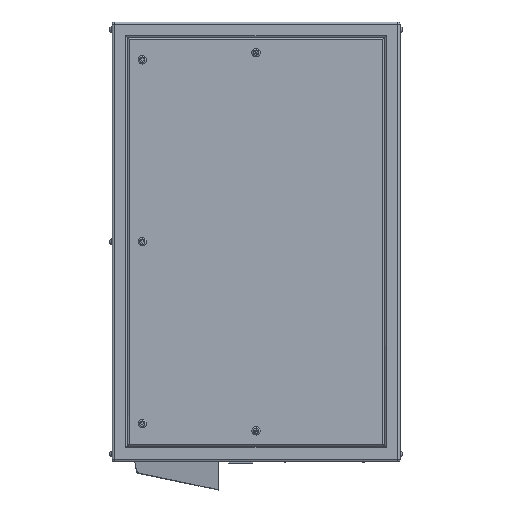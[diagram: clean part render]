
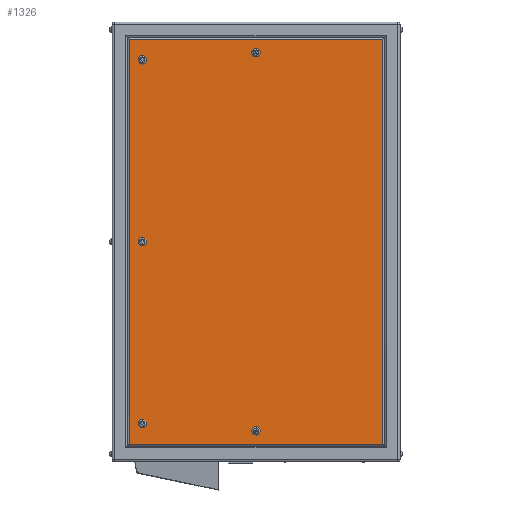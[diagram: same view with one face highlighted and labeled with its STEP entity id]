
A CAD part, left-side view. The second image highlights one B-rep face of the part: STEP entity #1326.
In plain terms, the highlighted planar face has unit normal (-1, 0, 0).
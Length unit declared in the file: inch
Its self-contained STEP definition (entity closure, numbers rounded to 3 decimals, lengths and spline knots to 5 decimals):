
#84 = ORIENTED_EDGE ( 'NONE', *, *, #1756, .T. ) ;
#146 = EDGE_LOOP ( 'NONE', ( #84, #14467 ) ) ;
#500 = CARTESIAN_POINT ( 'NONE',  ( -12.5, -16.74, 26.74 ) ) ;
#512 = CARTESIAN_POINT ( 'NONE',  ( -12.5, 19., -29. ) ) ;
#513 = CIRCLE ( 'NONE', #19868, 0.55 ) ;
#580 = CARTESIAN_POINT ( 'NONE',  ( -12.5, 0., 24.4 ) ) ;
#622 = FACE_BOUND ( 'NONE', #7264, .T. ) ;
#730 = FACE_BOUND ( 'NONE', #1294, .T. ) ;
#830 = EDGE_LOOP ( 'NONE', ( #18463, #2639 ) ) ;
#887 = DIRECTION ( 'NONE',  ( 0., 0., -1. ) ) ;
#1077 = CARTESIAN_POINT ( 'NONE',  ( -12.5, 0., -24.95 ) ) ;
#1294 = EDGE_LOOP ( 'NONE', ( #3354, #18619 ) ) ;
#1326 = ADVANCED_FACE ( 'NONE', ( #11240, #16622, #7654, #730, #622, #9638 ), #14765, .F. ) ;
#1679 = CARTESIAN_POINT ( 'NONE',  ( -12.5, 15., 0. ) ) ;
#1756 = EDGE_CURVE ( 'NONE', #10352, #14248, #5994, .T. ) ;
#2248 = CIRCLE ( 'NONE', #11236, 0.55 ) ;
#2381 = ORIENTED_EDGE ( 'NONE', *, *, #14793, .T. ) ;
#2589 = DIRECTION ( 'NONE',  ( 0., 0., -1. ) ) ;
#2639 = ORIENTED_EDGE ( 'NONE', *, *, #7020, .T. ) ;
#2802 = AXIS2_PLACEMENT_3D ( 'NONE', #21376, #10515, #15891 ) ;
#3270 = CARTESIAN_POINT ( 'NONE',  ( -12.5, 0., 25.5 ) ) ;
#3354 = ORIENTED_EDGE ( 'NONE', *, *, #14462, .T. ) ;
#4067 = CARTESIAN_POINT ( 'NONE',  ( -12.5, 0., -24.4 ) ) ;
#4162 = ORIENTED_EDGE ( 'NONE', *, *, #23112, .T. ) ;
#4166 = CARTESIAN_POINT ( 'NONE',  ( -12.5, 15., 0.55 ) ) ;
#4213 = VECTOR ( 'NONE', #21317, 39.37008 ) ;
#4312 = DIRECTION ( 'NONE',  ( 1., 0., 0. ) ) ;
#4746 = DIRECTION ( 'NONE',  ( 0., 0., -1. ) ) ;
#5085 = ORIENTED_EDGE ( 'NONE', *, *, #10561, .T. ) ;
#5260 = AXIS2_PLACEMENT_3D ( 'NONE', #15464, #11945, #8487 ) ;
#5352 = CARTESIAN_POINT ( 'NONE',  ( -12.5, 0., -24.95 ) ) ;
#5657 = LINE ( 'NONE', #19903, #17291 ) ;
#5724 = CIRCLE ( 'NONE', #18763, 0.55 ) ;
#5994 = CIRCLE ( 'NONE', #5260, 0.55 ) ;
#6527 = VERTEX_POINT ( 'NONE', #4067 ) ;
#6982 = LINE ( 'NONE', #10605, #13265 ) ;
#7020 = EDGE_CURVE ( 'NONE', #6527, #18206, #16059, .T. ) ;
#7181 = VERTEX_POINT ( 'NONE', #580 ) ;
#7264 = EDGE_LOOP ( 'NONE', ( #11819, #2381 ) ) ;
#7270 = VERTEX_POINT ( 'NONE', #4166 ) ;
#7639 = CARTESIAN_POINT ( 'NONE',  ( -12.5, 16.74, -29. ) ) ;
#7654 = FACE_BOUND ( 'NONE', #146, .T. ) ;
#7696 = DIRECTION ( 'NONE',  ( 0., 1., 0. ) ) ;
#8153 = DIRECTION ( 'NONE',  ( 1., 0., 0. ) ) ;
#8297 = CARTESIAN_POINT ( 'NONE',  ( -12.5, 15., -0.55 ) ) ;
#8376 = ORIENTED_EDGE ( 'NONE', *, *, #15295, .T. ) ;
#8436 = ORIENTED_EDGE ( 'NONE', *, *, #16556, .T. ) ;
#8454 = AXIS2_PLACEMENT_3D ( 'NONE', #21204, #20229, #2589 ) ;
#8466 = CIRCLE ( 'NONE', #2802, 0.55 ) ;
#8487 = DIRECTION ( 'NONE',  ( 0., 0., -1. ) ) ;
#8565 = CARTESIAN_POINT ( 'NONE',  ( -12.5, 15., 24. ) ) ;
#9451 = CARTESIAN_POINT ( 'NONE',  ( -12.5, 0., 24.95 ) ) ;
#9622 = LINE ( 'NONE', #11681, #21329 ) ;
#9638 = FACE_OUTER_BOUND ( 'NONE', #18937, .T. ) ;
#9744 = DIRECTION ( 'NONE',  ( 0., 0., -1. ) ) ;
#9848 = CARTESIAN_POINT ( 'NONE',  ( -12.5, -16.74, -26.74 ) ) ;
#9930 = CARTESIAN_POINT ( 'NONE',  ( -12.5, 15., -23.45 ) ) ;
#10107 = CARTESIAN_POINT ( 'NONE',  ( -12.5, 16.74, -26.74 ) ) ;
#10235 = VERTEX_POINT ( 'NONE', #19910 ) ;
#10352 = VERTEX_POINT ( 'NONE', #18086 ) ;
#10428 = VERTEX_POINT ( 'NONE', #500 ) ;
#10515 = DIRECTION ( 'NONE',  ( 1., 0., 0. ) ) ;
#10561 = EDGE_CURVE ( 'NONE', #12146, #22935, #9622, .T. ) ;
#10562 = DIRECTION ( 'NONE',  ( 1., 0., 0. ) ) ;
#10605 = CARTESIAN_POINT ( 'NONE',  ( -12.5, -16.74, -29. ) ) ;
#11208 = ORIENTED_EDGE ( 'NONE', *, *, #17849, .T. ) ;
#11224 = EDGE_LOOP ( 'NONE', ( #13782, #4162 ) ) ;
#11236 = AXIS2_PLACEMENT_3D ( 'NONE', #1077, #17428, #19032 ) ;
#11240 = FACE_BOUND ( 'NONE', #830, .T. ) ;
#11349 = AXIS2_PLACEMENT_3D ( 'NONE', #1679, #10562, #13823 ) ;
#11681 = CARTESIAN_POINT ( 'NONE',  ( -12.5, 19., -26.74 ) ) ;
#11819 = ORIENTED_EDGE ( 'NONE', *, *, #15850, .T. ) ;
#11912 = DIRECTION ( 'NONE',  ( 1., 0., 0. ) ) ;
#11945 = DIRECTION ( 'NONE',  ( 1., 0., 0. ) ) ;
#12146 = VERTEX_POINT ( 'NONE', #10107 ) ;
#12259 = CIRCLE ( 'NONE', #14154, 0.55 ) ;
#12495 = DIRECTION ( 'NONE',  ( 0., 0., 1. ) ) ;
#12663 = CARTESIAN_POINT ( 'NONE',  ( -12.5, 15., 23.45 ) ) ;
#13219 = DIRECTION ( 'NONE',  ( 0., 0., -1. ) ) ;
#13240 = DIRECTION ( 'NONE',  ( 0., 0., -1. ) ) ;
#13265 = VECTOR ( 'NONE', #21237, 39.37008 ) ;
#13320 = DIRECTION ( 'NONE',  ( 1., 0., 0. ) ) ;
#13531 = DIRECTION ( 'NONE',  ( 0., -1., 0. ) ) ;
#13730 = VERTEX_POINT ( 'NONE', #8297 ) ;
#13782 = ORIENTED_EDGE ( 'NONE', *, *, #18699, .T. ) ;
#13823 = DIRECTION ( 'NONE',  ( 0., 0., -1. ) ) ;
#14154 = AXIS2_PLACEMENT_3D ( 'NONE', #9451, #18256, #887 ) ;
#14248 = VERTEX_POINT ( 'NONE', #9930 ) ;
#14379 = DIRECTION ( 'NONE',  ( 1., 0., 0. ) ) ;
#14462 = EDGE_CURVE ( 'NONE', #13730, #7270, #5724, .T. ) ;
#14467 = ORIENTED_EDGE ( 'NONE', *, *, #17375, .T. ) ;
#14577 = EDGE_CURVE ( 'NONE', #7270, #13730, #19524, .T. ) ;
#14765 = PLANE ( 'NONE',  #18271 ) ;
#14793 = EDGE_CURVE ( 'NONE', #17198, #22673, #19851, .T. ) ;
#14997 = CARTESIAN_POINT ( 'NONE',  ( -12.5, 15., 24. ) ) ;
#15040 = AXIS2_PLACEMENT_3D ( 'NONE', #14997, #13320, #13219 ) ;
#15295 = EDGE_CURVE ( 'NONE', #10428, #10235, #5657, .T. ) ;
#15464 = CARTESIAN_POINT ( 'NONE',  ( -12.5, 15., -24. ) ) ;
#15850 = EDGE_CURVE ( 'NONE', #22673, #17198, #513, .T. ) ;
#15891 = DIRECTION ( 'NONE',  ( 0., 0., -1. ) ) ;
#16059 = CIRCLE ( 'NONE', #17163, 0.55 ) ;
#16556 = EDGE_CURVE ( 'NONE', #10235, #12146, #19297, .T. ) ;
#16622 = FACE_BOUND ( 'NONE', #11224, .T. ) ;
#17163 = AXIS2_PLACEMENT_3D ( 'NONE', #5352, #14379, #12495 ) ;
#17198 = VERTEX_POINT ( 'NONE', #22737 ) ;
#17291 = VECTOR ( 'NONE', #7696, 39.37008 ) ;
#17375 = EDGE_CURVE ( 'NONE', #14248, #10352, #18835, .T. ) ;
#17428 = DIRECTION ( 'NONE',  ( 1., 0., 0. ) ) ;
#17849 = EDGE_CURVE ( 'NONE', #22935, #10428, #6982, .T. ) ;
#18086 = CARTESIAN_POINT ( 'NONE',  ( -12.5, 15., -24.55 ) ) ;
#18206 = VERTEX_POINT ( 'NONE', #22977 ) ;
#18256 = DIRECTION ( 'NONE',  ( 1., 0., 0. ) ) ;
#18271 = AXIS2_PLACEMENT_3D ( 'NONE', #512, #4312, #9744 ) ;
#18463 = ORIENTED_EDGE ( 'NONE', *, *, #19808, .T. ) ;
#18619 = ORIENTED_EDGE ( 'NONE', *, *, #14577, .T. ) ;
#18699 = EDGE_CURVE ( 'NONE', #7181, #19918, #12259, .T. ) ;
#18763 = AXIS2_PLACEMENT_3D ( 'NONE', #22258, #8153, #13240 ) ;
#18835 = CIRCLE ( 'NONE', #8454, 0.55 ) ;
#18937 = EDGE_LOOP ( 'NONE', ( #5085, #11208, #8376, #8436 ) ) ;
#19032 = DIRECTION ( 'NONE',  ( 0., 0., 1. ) ) ;
#19297 = LINE ( 'NONE', #7639, #4213 ) ;
#19524 = CIRCLE ( 'NONE', #11349, 0.55 ) ;
#19808 = EDGE_CURVE ( 'NONE', #18206, #6527, #2248, .T. ) ;
#19851 = CIRCLE ( 'NONE', #15040, 0.55 ) ;
#19868 = AXIS2_PLACEMENT_3D ( 'NONE', #8565, #11912, #4746 ) ;
#19903 = CARTESIAN_POINT ( 'NONE',  ( -12.5, 19., 26.74 ) ) ;
#19910 = CARTESIAN_POINT ( 'NONE',  ( -12.5, 16.74, 26.74 ) ) ;
#19918 = VERTEX_POINT ( 'NONE', #3270 ) ;
#20229 = DIRECTION ( 'NONE',  ( 1., 0., 0. ) ) ;
#21204 = CARTESIAN_POINT ( 'NONE',  ( -12.5, 15., -24. ) ) ;
#21237 = DIRECTION ( 'NONE',  ( 0., 0., 1. ) ) ;
#21317 = DIRECTION ( 'NONE',  ( 0., 0., -1. ) ) ;
#21329 = VECTOR ( 'NONE', #13531, 39.37008 ) ;
#21376 = CARTESIAN_POINT ( 'NONE',  ( -12.5, 0., 24.95 ) ) ;
#22258 = CARTESIAN_POINT ( 'NONE',  ( -12.5, 15., 0. ) ) ;
#22673 = VERTEX_POINT ( 'NONE', #12663 ) ;
#22737 = CARTESIAN_POINT ( 'NONE',  ( -12.5, 15., 24.55 ) ) ;
#22935 = VERTEX_POINT ( 'NONE', #9848 ) ;
#22977 = CARTESIAN_POINT ( 'NONE',  ( -12.5, 0., -25.5 ) ) ;
#23112 = EDGE_CURVE ( 'NONE', #19918, #7181, #8466, .T. ) ;
